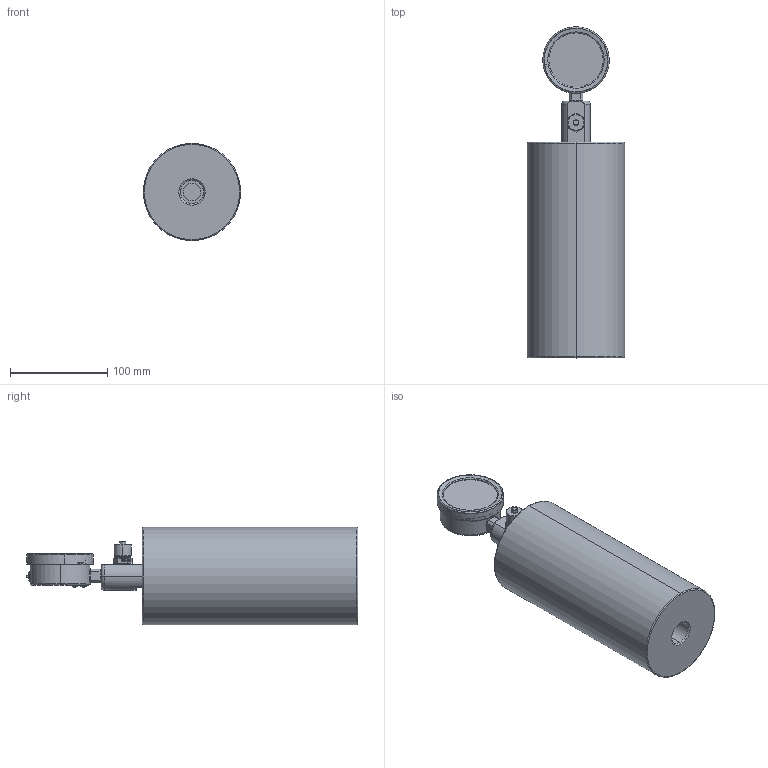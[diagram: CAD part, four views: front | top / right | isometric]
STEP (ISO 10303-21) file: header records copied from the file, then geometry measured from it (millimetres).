
FILE_DESCRIPTION (( 'STEP AP214' ), '1' );
FILE_NAME ('U007A01X1-PC (DGA).STEP', '2025-04-08T13:51:19', ( '' ), ( '' ), 'SwSTEP 2.0', 'SolidWorks 2024', '' );
FILE_SCHEMA (( 'AUTOMOTIVE_DESIGN' ));
Length unit declared in the file: millimetre
Products named in the file (1): U007A01X1-PC (DGA)
Bounding box: 100 x 341.55 x 100 mm (x, y, z)
Surface area: 142045.8 mm2 (no closed solid volume)
Topology: 0 solids, 19 shells, 787 faces, 2552 edges, 1724 vertices
Faces by surface type: plane 295, bspline 187, cylinder 174, cone 61, torus 60, sphere 10
Entity records: 60053 total; most frequent: CARTESIAN_POINT 31185, ORIENTED_EDGE 4308, DIRECTION 3474, EDGE_CURVE 2550, VERTEX_POINT 1724, VECTOR 1334, LINE 1334, AXIS2_PLACEMENT_3D 1070
